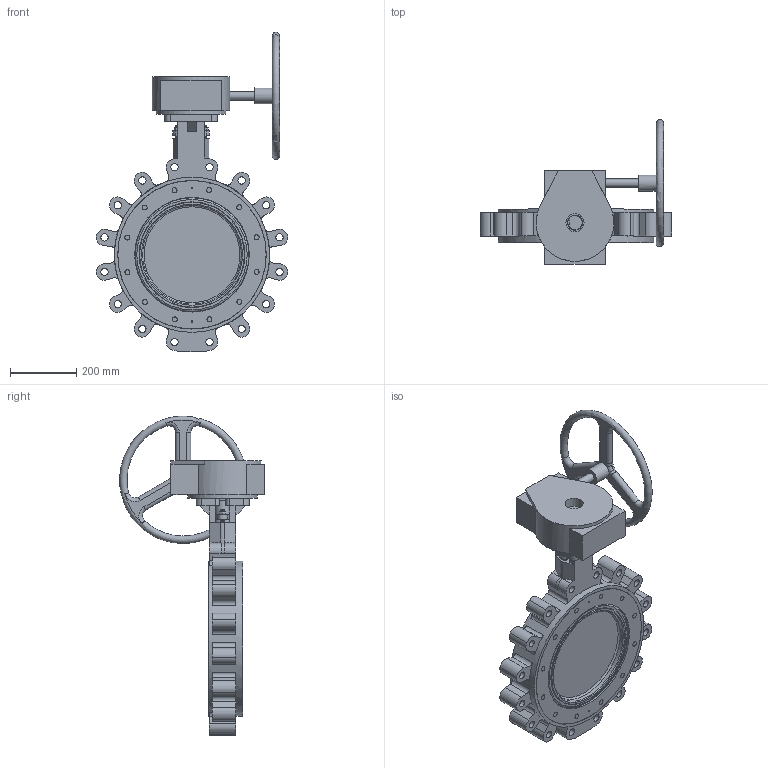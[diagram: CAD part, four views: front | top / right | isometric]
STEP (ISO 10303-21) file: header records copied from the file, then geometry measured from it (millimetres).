
FILE_DESCRIPTION(('Open CASCADE Model'),'2;1');
FILE_NAME('Open CASCADE Shape Model','2020-09-29T12:49:39',('Author'),( 'Open CASCADE'),'Open CASCADE STEP processor 7.3','Open CASCADE 7.3' ,'Unknown');
FILE_SCHEMA(('AUTOMOTIVE_DESIGN { 1 0 10303 214 1 1 1 1 }'));
Length unit declared in the file: millimetre
Products named in the file (38): Open CASCADE STEP translator 7.3 1; Open CASCADE STEP translator 7.3 1.1; Open CASCADE STEP translator 7.3 1.2; Open CASCADE STEP translator 7.3 1.3; Open CASCADE STEP translator 7.3 1.4; Open CASCADE STEP translator 7.3 1.5; Open CASCADE STEP translator 7.3 1.6; Open CASCADE STEP translator 7.3 1.7; Open CASCADE STEP translator 7.3 1.8; Open CASCADE STEP translator 7.3 1.9; Open CASCADE STEP translator 7.3 1.10; Open CASCADE STEP translator 7.3 1.11; Open CASCADE STEP translator 7.3 1.12; Open CASCADE STEP translator 7.3 1.13; Open CASCADE STEP translator 7.3 1.14; Open CASCADE STEP translator 7.3 1.15; Open CASCADE STEP translator 7.3 1.16; Open CASCADE STEP translator 7.3 1.17; Open CASCADE STEP translator 7.3 1.18; Open CASCADE STEP translator 7.3 1.19; Open CASCADE STEP translator 7.3 1.20; Open CASCADE STEP translator 7.3 1.21; Open CASCADE STEP translator 7.3 1.22; Open CASCADE STEP translator 7.3 1.23; Open CASCADE STEP translator 7.3 1.24; Open CASCADE STEP translator 7.3 1.25; Open CASCADE STEP translator 7.3 1.26; Open CASCADE STEP translator 7.3 1.27; Open CASCADE STEP translator 7.3 1.28; Open CASCADE STEP translator 7.3 1.29; Open CASCADE STEP translator 7.3 1.30; Open CASCADE STEP translator 7.3 1.31; Open CASCADE STEP translator 7.3 1.32; Open CASCADE STEP translator 7.3 1.33; Open CASCADE STEP translator 7.3 1.34; Open CASCADE STEP translator 7.3 1.35; Open CASCADE STEP translator 7.3 1.36; Open CASCADE STEP translator 7.3 1.37
Assembly tree (37 placements, depth 2):
  Open CASCADE STEP translator 7.3 1
    Open CASCADE STEP translator 7.3 1.1
    Open CASCADE STEP translator 7.3 1.2
    Open CASCADE STEP translator 7.3 1.3
    Open CASCADE STEP translator 7.3 1.4
    Open CASCADE STEP translator 7.3 1.5
    Open CASCADE STEP translator 7.3 1.6
    Open CASCADE STEP translator 7.3 1.7
    Open CASCADE STEP translator 7.3 1.8
    Open CASCADE STEP translator 7.3 1.9
    Open CASCADE STEP translator 7.3 1.10
    Open CASCADE STEP translator 7.3 1.11
    Open CASCADE STEP translator 7.3 1.12
    Open CASCADE STEP translator 7.3 1.13
    Open CASCADE STEP translator 7.3 1.14
    Open CASCADE STEP translator 7.3 1.15
    Open CASCADE STEP translator 7.3 1.16
    Open CASCADE STEP translator 7.3 1.17
    Open CASCADE STEP translator 7.3 1.18
    Open CASCADE STEP translator 7.3 1.19
    Open CASCADE STEP translator 7.3 1.20
    Open CASCADE STEP translator 7.3 1.21
    Open CASCADE STEP translator 7.3 1.22
    Open CASCADE STEP translator 7.3 1.23
    Open CASCADE STEP translator 7.3 1.24
    Open CASCADE STEP translator 7.3 1.25
    Open CASCADE STEP translator 7.3 1.26
    Open CASCADE STEP translator 7.3 1.27
    Open CASCADE STEP translator 7.3 1.28
    Open CASCADE STEP translator 7.3 1.29
    Open CASCADE STEP translator 7.3 1.30
    Open CASCADE STEP translator 7.3 1.31
    Open CASCADE STEP translator 7.3 1.32
    Open CASCADE STEP translator 7.3 1.33
    Open CASCADE STEP translator 7.3 1.34
    Open CASCADE STEP translator 7.3 1.35
    Open CASCADE STEP translator 7.3 1.36
    Open CASCADE STEP translator 7.3 1.37
Bounding box: 579.68 x 438.33 x 966.63 mm (x, y, z)
Volume: 22516048.1 mm3; surface area: 2121677.5 mm2
Topology: 37 solids, 37 shells, 981 faces, 2266 edges, 1435 vertices
Faces by surface type: plane 364, cylinder 339, cone 220, torus 35, bspline 12, sphere 11
Full cylindrical faces by diameter (mm): 4.134 x2, 4.2 x2, 4.917 x2, 5 x2, 6.647 x16, 8 x4, 9 x26, 10 x4, 10.106 x2, 13.835 x4, 14 x2, 15 x24, 16 x39, 17 x4, 21.963 x16, 22 x4, 25 x2, 39 x1, 45 x8, 45.3 x1, 46 x1, 46.6 x2, 48 x1, 55 x1, 56.5 x1, 57 x4, 210.5 x1, 300 x1, 320 x1, 345.9 x1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
Entity records: 74153 total; most frequent: CARTESIAN_POINT 27288, DIRECTION 8950, ORIENTED_EDGE 4516, PCURVE 4516, DEFINITIONAL_REPRESENTATION 4516, LINE 4156, VECTOR 4156, EDGE_CURVE 2258
